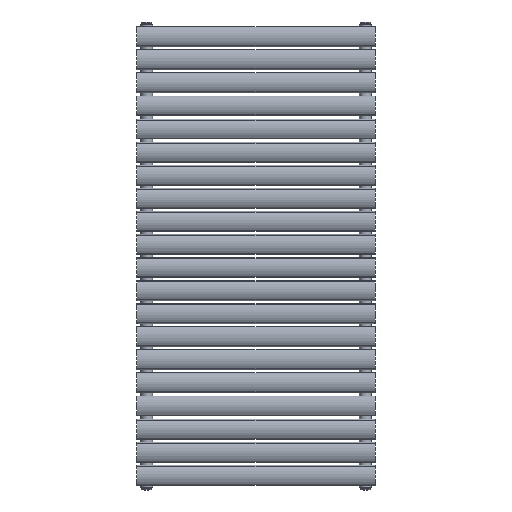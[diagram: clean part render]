
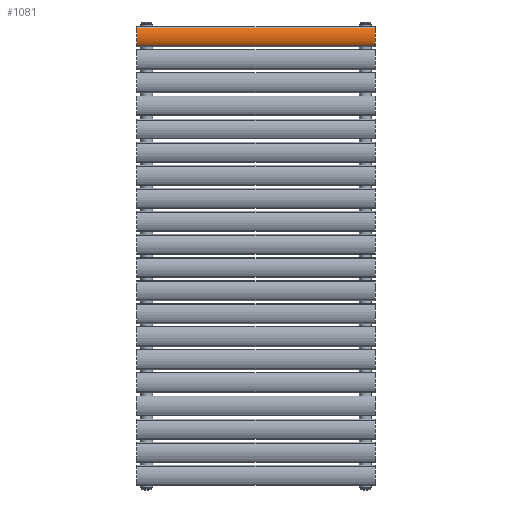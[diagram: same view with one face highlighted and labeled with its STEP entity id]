
A CAD part, top view. The second image highlights one B-rep face of the part: STEP entity #1081.
In plain terms, the highlighted cylindrical face has radius 39.5 mm (diameter 79 mm), a partial arc.
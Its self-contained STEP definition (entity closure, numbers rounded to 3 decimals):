
#131=LINE('',#2928,#163);
#132=LINE('',#2932,#164);
#163=VECTOR('',#1338,10.);
#164=VECTOR('',#1341,10.);
#237=CIRCLE('',#1183,39.5);
#238=CIRCLE('',#1184,39.5);
#355=FACE_OUTER_BOUND('',#462,.T.);
#462=EDGE_LOOP('',(#892,#893,#894,#895));
#614=VERTEX_POINT('',#2926);
#615=VERTEX_POINT('',#2927);
#616=VERTEX_POINT('',#2929);
#617=VERTEX_POINT('',#2931);
#717=EDGE_CURVE('',#614,#615,#131,.T.);
#718=EDGE_CURVE('',#616,#614,#237,.T.);
#719=EDGE_CURVE('',#617,#616,#132,.T.);
#720=EDGE_CURVE('',#615,#617,#238,.T.);
#892=ORIENTED_EDGE('',*,*,#717,.F.);
#893=ORIENTED_EDGE('',*,*,#718,.F.);
#894=ORIENTED_EDGE('',*,*,#719,.F.);
#895=ORIENTED_EDGE('',*,*,#720,.F.);
#1048=CYLINDRICAL_SURFACE('',#1182,39.5);
#1081=ADVANCED_FACE('',(#355),#1048,.T.);
#1182=AXIS2_PLACEMENT_3D('',#2925,#1336,#1337);
#1183=AXIS2_PLACEMENT_3D('',#2930,#1339,#1340);
#1184=AXIS2_PLACEMENT_3D('',#2933,#1342,#1343);
#1336=DIRECTION('center_axis',(0.,0.,1.));
#1337=DIRECTION('ref_axis',(-0.552,-0.834,0.));
#1338=DIRECTION('',(0.,0.,-1.));
#1339=DIRECTION('center_axis',(0.,0.,1.));
#1340=DIRECTION('ref_axis',(-0.552,-0.834,0.));
#1341=DIRECTION('',(0.,0.,1.));
#1342=DIRECTION('center_axis',(0.,0.,-1.));
#1343=DIRECTION('ref_axis',(-0.552,-0.834,0.));
#2925=CARTESIAN_POINT('Origin',(0.,14.5,0.));
#2926=CARTESIAN_POINT('',(21.816,-18.429,300.));
#2927=CARTESIAN_POINT('',(21.816,-18.429,-300.));
#2928=CARTESIAN_POINT('',(21.816,-18.429,0.));
#2929=CARTESIAN_POINT('',(-21.816,-18.429,300.));
#2930=CARTESIAN_POINT('Origin',(0.,14.5,300.));
#2931=CARTESIAN_POINT('',(-21.816,-18.429,-300.));
#2932=CARTESIAN_POINT('',(-21.816,-18.429,0.));
#2933=CARTESIAN_POINT('Origin',(0.,14.5,-300.));
